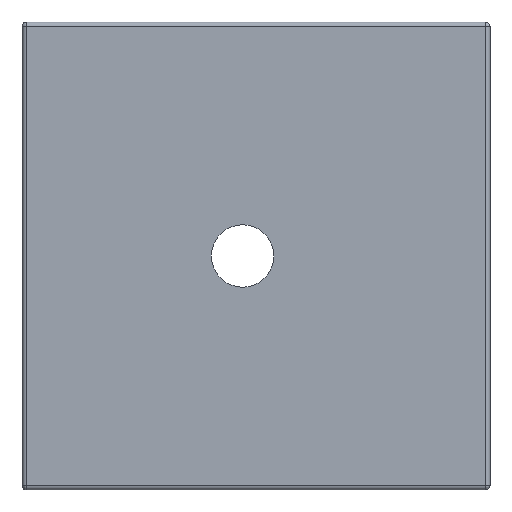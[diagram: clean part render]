
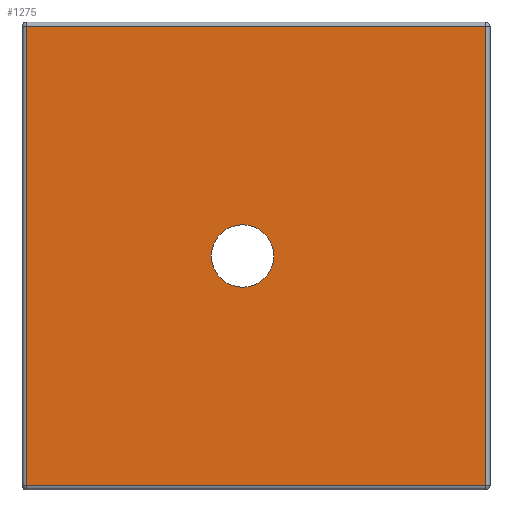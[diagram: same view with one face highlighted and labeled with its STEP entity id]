
A CAD part, left-side view. The second image highlights one B-rep face of the part: STEP entity #1275.
In plain terms, the highlighted planar face has unit normal (-1, 0, 0).
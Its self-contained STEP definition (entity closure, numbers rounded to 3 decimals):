
#74 = ORIENTED_EDGE ( 'NONE', *, *, #2708, .T. ) ;
#257 = EDGE_CURVE ( 'NONE', #3200, #3664, #1661, .T. ) ;
#311 = FACE_OUTER_BOUND ( 'NONE', #816, .T. ) ;
#385 = DIRECTION ( 'NONE',  ( 0., 1., 0. ) ) ;
#390 = ORIENTED_EDGE ( 'NONE', *, *, #3899, .F. ) ;
#426 = PLANE ( 'NONE',  #3817 ) ;
#711 = DIRECTION ( 'NONE',  ( 0., 0., 1. ) ) ;
#816 = EDGE_LOOP ( 'NONE', ( #390, #2865, #3703, #1713 ) ) ;
#868 = CARTESIAN_POINT ( 'NONE',  ( 2199.177, -670.194, -9.1 ) ) ;
#952 = CARTESIAN_POINT ( 'NONE',  ( 2199.177, -660.494, -21. ) ) ;
#1033 = AXIS2_PLACEMENT_3D ( 'NONE', #4318, #3062, #711 ) ;
#1275 = ADVANCED_FACE ( 'NONE', ( #5133, #311 ), #426, .F. ) ;
#1482 = DIRECTION ( 'NONE',  ( 1., 0., 0. ) ) ;
#1490 = LINE ( 'NONE', #3387, #4938 ) ;
#1539 = EDGE_LOOP ( 'NONE', ( #3225, #74 ) ) ;
#1564 = EDGE_CURVE ( 'NONE', #2840, #2332, #1490, .T. ) ;
#1612 = CARTESIAN_POINT ( 'NONE',  ( 2199.177, -681.294, -21. ) ) ;
#1661 = CIRCLE ( 'NONE', #1814, 1.4 ) ;
#1713 = ORIENTED_EDGE ( 'NONE', *, *, #4447, .F. ) ;
#1792 = DIRECTION ( 'NONE',  ( 0., 0., -1. ) ) ;
#1814 = AXIS2_PLACEMENT_3D ( 'NONE', #3084, #1482, #4699 ) ;
#2013 = DIRECTION ( 'NONE',  ( 1., 0., 0. ) ) ;
#2099 = CARTESIAN_POINT ( 'NONE',  ( 2199.177, -681.094, -0.2 ) ) ;
#2185 = EDGE_CURVE ( 'NONE', #2332, #3058, #4369, .T. ) ;
#2332 = VERTEX_POINT ( 'NONE', #3255 ) ;
#2395 = CARTESIAN_POINT ( 'NONE',  ( 2199.177, -681.294, -20.8 ) ) ;
#2403 = DIRECTION ( 'NONE',  ( 0., 0., -1. ) ) ;
#2592 = CARTESIAN_POINT ( 'NONE',  ( 2199.177, -681.294, -0.2 ) ) ;
#2708 = EDGE_CURVE ( 'NONE', #3664, #3200, #3613, .T. ) ;
#2840 = VERTEX_POINT ( 'NONE', #2099 ) ;
#2865 = ORIENTED_EDGE ( 'NONE', *, *, #2185, .F. ) ;
#2981 = DIRECTION ( 'NONE',  ( 0., -1., 0. ) ) ;
#3058 = VERTEX_POINT ( 'NONE', #4325 ) ;
#3062 = DIRECTION ( 'NONE',  ( 1., 0., 0. ) ) ;
#3084 = CARTESIAN_POINT ( 'NONE',  ( 2199.177, -670.194, -10.5 ) ) ;
#3125 = CARTESIAN_POINT ( 'NONE',  ( 2199.177, -670.194, -11.9 ) ) ;
#3200 = VERTEX_POINT ( 'NONE', #868 ) ;
#3225 = ORIENTED_EDGE ( 'NONE', *, *, #257, .T. ) ;
#3255 = CARTESIAN_POINT ( 'NONE',  ( 2199.177, -681.094, -20.8 ) ) ;
#3387 = CARTESIAN_POINT ( 'NONE',  ( 2199.177, -681.094, -21. ) ) ;
#3613 = CIRCLE ( 'NONE', #1033, 1.4 ) ;
#3664 = VERTEX_POINT ( 'NONE', #3125 ) ;
#3703 = ORIENTED_EDGE ( 'NONE', *, *, #1564, .F. ) ;
#3817 = AXIS2_PLACEMENT_3D ( 'NONE', #1612, #2013, #2403 ) ;
#3899 = EDGE_CURVE ( 'NONE', #3058, #4370, #5194, .T. ) ;
#4145 = DIRECTION ( 'NONE',  ( 0., 0., 1. ) ) ;
#4310 = LINE ( 'NONE', #2592, #4697 ) ;
#4318 = CARTESIAN_POINT ( 'NONE',  ( 2199.177, -670.194, -10.5 ) ) ;
#4325 = CARTESIAN_POINT ( 'NONE',  ( 2199.177, -660.494, -20.8 ) ) ;
#4369 = LINE ( 'NONE', #2395, #5000 ) ;
#4370 = VERTEX_POINT ( 'NONE', #4571 ) ;
#4447 = EDGE_CURVE ( 'NONE', #4370, #2840, #4310, .T. ) ;
#4571 = CARTESIAN_POINT ( 'NONE',  ( 2199.177, -660.494, -0.2 ) ) ;
#4697 = VECTOR ( 'NONE', #2981, 1000. ) ;
#4699 = DIRECTION ( 'NONE',  ( 0., 0., 1. ) ) ;
#4706 = VECTOR ( 'NONE', #4145, 1000. ) ;
#4938 = VECTOR ( 'NONE', #1792, 1000. ) ;
#5000 = VECTOR ( 'NONE', #385, 1000. ) ;
#5133 = FACE_BOUND ( 'NONE', #1539, .T. ) ;
#5194 = LINE ( 'NONE', #952, #4706 ) ;
